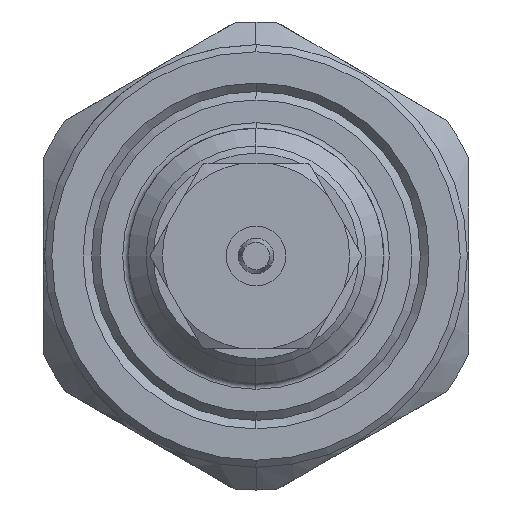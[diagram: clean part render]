
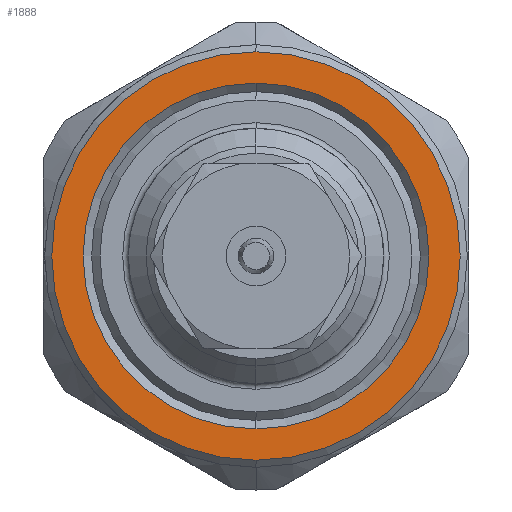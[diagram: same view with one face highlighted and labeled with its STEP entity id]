
A CAD part, left-side view. The second image highlights one B-rep face of the part: STEP entity #1888.
In plain terms, the highlighted planar face has unit normal (-1, 0, 0).
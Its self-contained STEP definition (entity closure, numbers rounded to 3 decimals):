
#18 = DIRECTION ( 'NONE',  ( 0., 0., -1. ) ) ;
#75 = ORIENTED_EDGE ( 'NONE', *, *, #1775, .T. ) ;
#205 = EDGE_CURVE ( 'NONE', #10097, #1649, #3219, .T. ) ;
#964 = FACE_OUTER_BOUND ( 'NONE', #8625, .T. ) ;
#1227 = FACE_BOUND ( 'NONE', #10354, .T. ) ;
#1603 = CIRCLE ( 'NONE', #3469, 12.19 ) ;
#1649 = VERTEX_POINT ( 'NONE', #9312 ) ;
#1775 = EDGE_CURVE ( 'NONE', #1649, #10097, #4220, .T. ) ;
#1888 = ADVANCED_FACE ( 'NONE', ( #964, #1227 ), #9711, .F. ) ;
#2235 = EDGE_CURVE ( 'NONE', #5207, #10430, #1603, .T. ) ;
#2282 = AXIS2_PLACEMENT_3D ( 'NONE', #4687, #10308, #5504 ) ;
#3112 = DIRECTION ( 'NONE',  ( -1., 0., 0. ) ) ;
#3120 = ORIENTED_EDGE ( 'NONE', *, *, #5701, .F. ) ;
#3219 = CIRCLE ( 'NONE', #3752, 14.4 ) ;
#3252 = CARTESIAN_POINT ( 'NONE',  ( 0., 12.19, 0. ) ) ;
#3469 = AXIS2_PLACEMENT_3D ( 'NONE', #8503, #3642, #9298 ) ;
#3642 = DIRECTION ( 'NONE',  ( -1., 0., 0. ) ) ;
#3752 = AXIS2_PLACEMENT_3D ( 'NONE', #9835, #5008, #18 ) ;
#3828 = CARTESIAN_POINT ( 'NONE',  ( 0., 0., 14.4 ) ) ;
#4084 = DIRECTION ( 'NONE',  ( 0., 0., -1. ) ) ;
#4220 = CIRCLE ( 'NONE', #7895, 14.4 ) ;
#4687 = CARTESIAN_POINT ( 'NONE',  ( 0., 0., 0. ) ) ;
#4726 = ORIENTED_EDGE ( 'NONE', *, *, #2235, .F. ) ;
#4987 = AXIS2_PLACEMENT_3D ( 'NONE', #3252, #8938, #4084 ) ;
#5008 = DIRECTION ( 'NONE',  ( -1., 0., 0. ) ) ;
#5207 = VERTEX_POINT ( 'NONE', #8540 ) ;
#5504 = DIRECTION ( 'NONE',  ( 0., 0., 1. ) ) ;
#5701 = EDGE_CURVE ( 'NONE', #10430, #5207, #7013, .T. ) ;
#6147 = CARTESIAN_POINT ( 'NONE',  ( 0., 0., 12.19 ) ) ;
#7013 = CIRCLE ( 'NONE', #2282, 12.19 ) ;
#7895 = AXIS2_PLACEMENT_3D ( 'NONE', #7994, #3112, #8803 ) ;
#7994 = CARTESIAN_POINT ( 'NONE',  ( 0., 0., 0. ) ) ;
#8503 = CARTESIAN_POINT ( 'NONE',  ( 0., 0., 0. ) ) ;
#8540 = CARTESIAN_POINT ( 'NONE',  ( 0., 0., -12.19 ) ) ;
#8625 = EDGE_LOOP ( 'NONE', ( #75, #8698 ) ) ;
#8698 = ORIENTED_EDGE ( 'NONE', *, *, #205, .T. ) ;
#8803 = DIRECTION ( 'NONE',  ( 0., 0., -1. ) ) ;
#8938 = DIRECTION ( 'NONE',  ( 1., 0., 0. ) ) ;
#9298 = DIRECTION ( 'NONE',  ( 0., 0., 1. ) ) ;
#9312 = CARTESIAN_POINT ( 'NONE',  ( 0., 0., -14.4 ) ) ;
#9711 = PLANE ( 'NONE',  #4987 ) ;
#9835 = CARTESIAN_POINT ( 'NONE',  ( 0., 0., 0. ) ) ;
#10097 = VERTEX_POINT ( 'NONE', #3828 ) ;
#10308 = DIRECTION ( 'NONE',  ( -1., 0., 0. ) ) ;
#10354 = EDGE_LOOP ( 'NONE', ( #3120, #4726 ) ) ;
#10430 = VERTEX_POINT ( 'NONE', #6147 ) ;
